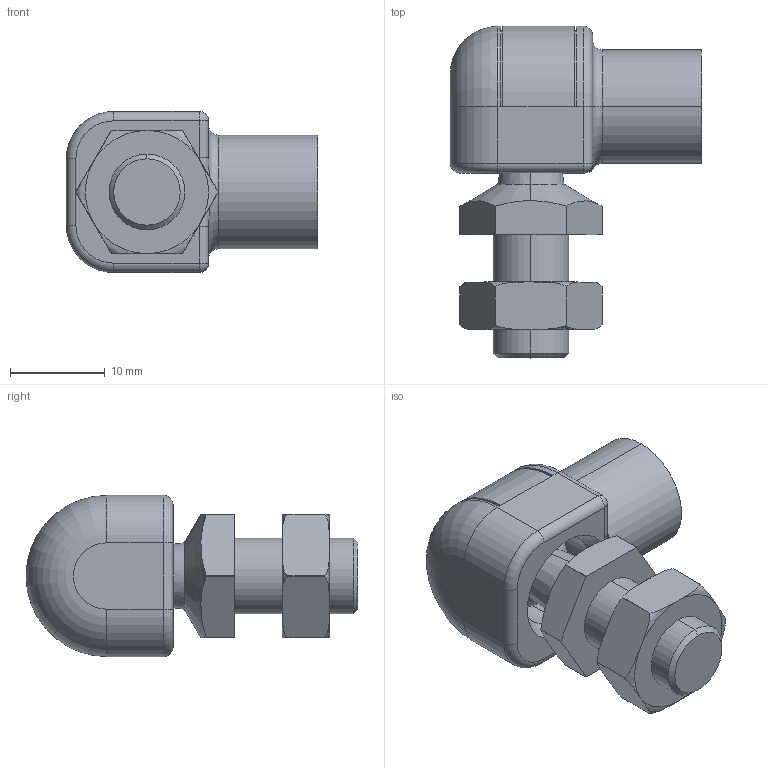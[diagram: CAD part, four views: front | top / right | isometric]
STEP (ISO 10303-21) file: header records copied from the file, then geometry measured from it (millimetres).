
FILE_DESCRIPTION (( 'STEP AP214' ), '1' );
FILE_NAME ('13.CS10M6M8L18KNST.STEP', '2017-11-22T18:32:48', ( '' ), ( '' ), 'SwSTEP 2.0', 'SolidWorks 2016', '' );
FILE_SCHEMA (( 'AUTOMOTIVE_DESIGN' ));
Length unit declared in the file: millimetre
Products named in the file (1): 13.CS10M6M8L18KNST
Bounding box: 26.5 x 35 x 17 mm (x, y, z)
Volume: 6203.6 mm3; surface area: 3422.8 mm2
Topology: 2 solids, 2 shells, 102 faces, 245 edges, 145 vertices
Faces by surface type: plane 37, cylinder 30, torus 18, cone 12, sphere 4, bspline 1
Entity records: 3316 total; most frequent: CARTESIAN_POINT 884, DIRECTION 512, ORIENTED_EDGE 472, EDGE_CURVE 236, AXIS2_PLACEMENT_3D 210, VERTEX_POINT 142, CIRCLE 108, EDGE_LOOP 106
